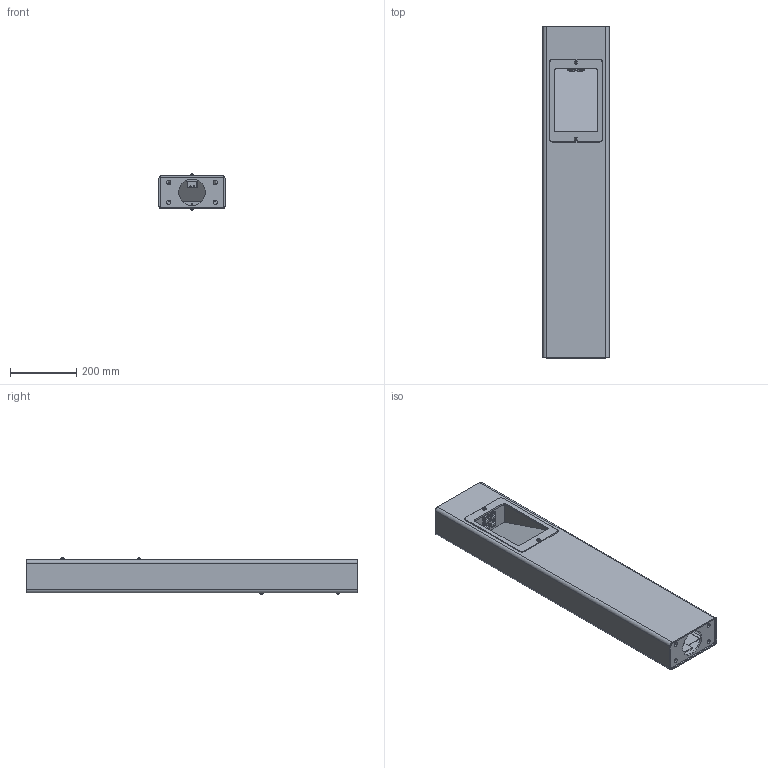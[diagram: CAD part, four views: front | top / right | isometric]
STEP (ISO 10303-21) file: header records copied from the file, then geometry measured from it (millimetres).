
FILE_DESCRIPTION (( 'STEP AP214' ), '1' );
FILE_NAME ('stella-1-1(10)-çäôà-ö+ïî.STEP', '2021-07-13T11:14:28', ( '' ), ( '' ), 'SwSTEP 2.0', 'SolidWorks 2020', '' );
FILE_SCHEMA (( 'AUTOMOTIVE_DESIGN' ));
Length unit declared in the file: millimetre
Products named in the file (22): Ïëàíêà çàçåìëåíèÿ 35õ20; Êëåììà WAGO 221-412 2 êîíòàêòíàÿ (ðàçúåìíîå ñîåä.); DIN-ðåéêà_ŽƒŠ-3; ﾎ魵瑙韃 Stella-1; Assy_SITARA-2X2-T2 Mechmodel 20171120; 砑僗鴀 Stella-1; socket button head screw_iso_ISO 7380 - M6 x 16 - 16N; Ñàìîðåç íåðæàâåþùèé 2,9õ16 DIN 7981 H A2 ñ ïîëóêðóãëîé ãîëîâêîé; 砑鳧罻 Stella-1; 鍔膰睯縺 Stella-1; Êîðïóñ ñâåòèëüíèêà Stella-1; PL186.01-06; Êðûøêà ëþêà Stella-1_Default<Š ª ®¡à ¡®â ­­ë©>; WAGO 209-120 êðîíøòåéí ìîíòàæíûé; Ôëàíåö Stella-1_Default<Š ª ®¡à ¡®â ­­ë©>; ﾑ鸙 Stella-1-1(10); ﾄ鰾褞 LPH-18-12; stella-1-1(10)-çäôà-ö+ïî; 砚弪桦桕 Stella-1; Ñòâîë Stella-1_Default<Š ª ®¡à ¡®â ­­ë©>; Êàáåëü ÊÏÑÂÂíã(À)-LS 1õ2õ0,5 êâ.ìì êðàñí.; 咍嚦 Stella-1
Assembly tree (35 placements, depth 4):
  stella-1-1(10)-çäôà-ö+ïî
    ﾑ鸙 Stella-1-1(10)
      Ñòâîë Stella-1_Default<Š ª ®¡à ¡®â ­­ë©>
      Ôëàíåö Stella-1_Default<Š ª ®¡à ¡®â ­­ë©>
      Ïëàíêà çàçåìëåíèÿ 35õ20
      DIN-ðåéêà_ŽƒŠ-3
      砑僗鴀 Stella-1  x4
    ﾄ鰾褞 LPH-18-12
    WAGO 209-120 êðîíøòåéí ìîíòàæíûé  x2
    Êðûøêà ëþêà Stella-1_Default<Š ª ®¡à ¡®â ­­ë©>
    砚弪桦桕 Stella-1
      Êîðïóñ ñâåòèëüíèêà Stella-1
        砑鳧罻 Stella-1
        ﾎ魵瑙韃 Stella-1
        鍔膰睯縺 Stella-1  x2
        咍嚦 Stella-1
      Assy_SITARA-2X2-T2 Mechmodel 20171120
      Ñàìîðåç íåðæàâåþùèé 2,9õ16 DIN 7981 H A2 ñ ïîëóêðóãëîé ãîëîâêîé  x6
      PL186.01-06
    socket button head screw_iso_ISO 7380 - M6 x 16 - 16N  x4
    Êàáåëü ÊÏÑÂÂíã(À)-LS 1õ2õ0,5 êâ.ìì êðàñí.
    Êëåììà WAGO 221-412 2 êîíòàêòíàÿ (ðàçúåìíîå ñîåä.)  x2
Bounding box: 200 x 1000 x 108.6 mm (x, y, z)
Volume: 2831249.8 mm3; surface area: 1370469.6 mm2
Topology: 33 solids, 33 shells, 1374 faces, 3425 edges, 2154 vertices
Faces by surface type: plane 678, cylinder 378, cone 160, torus 96, sphere 34, bspline 28
Entity records: 35502 total; most frequent: CARTESIAN_POINT 9558, ORIENTED_EDGE 5224, DIRECTION 4997, EDGE_CURVE 2612, AXIS2_PLACEMENT_3D 1843, VERTEX_POINT 1638, VECTOR 1311, LINE 1311
